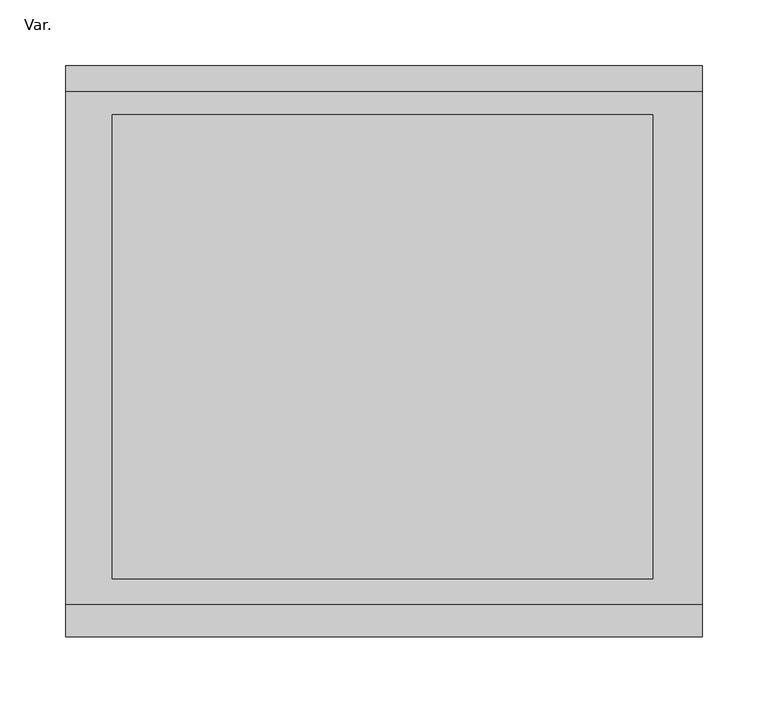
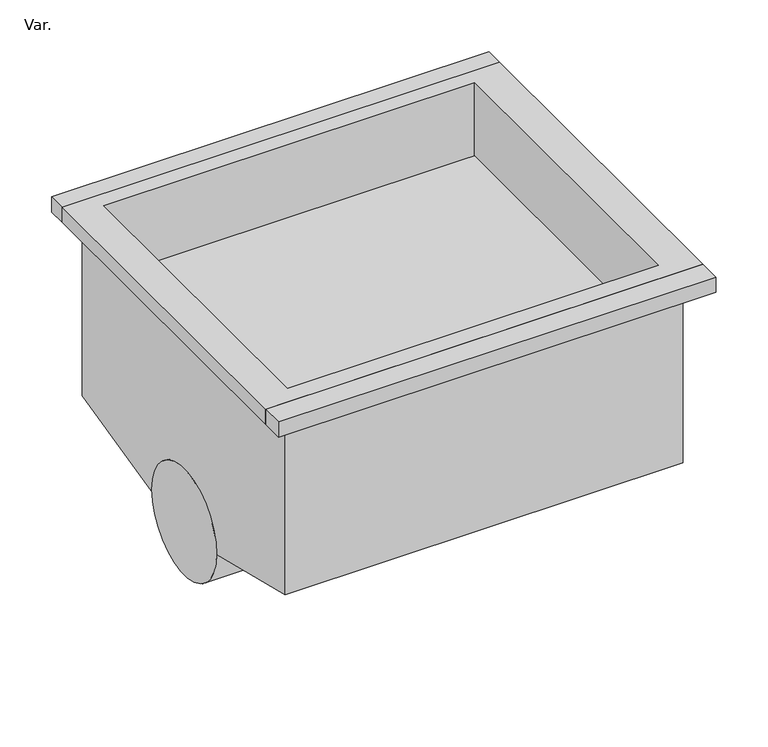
"""IFC4 building model written with IfcOpenShell, lengths in millimetres: pipe fitting geometry, PlastigamaWavin_Unionesdetubería_SanitariaCajaDomiciliaria : Var.."""

from ifc_helpers import new_model, si_unit, frame, origin, place, context, project, spatial, polyline, circle_curve, outline, extrude, source, transform, mapped, element, save
from ifc_brep_helpers import plane_surface, cylinder_surface, revolved_surface, advanced_brep


def var_2a6e803b(model_context):
    return source(origin(), model_context, "Body", "SolidModel", [
        advanced_brep(
        [(0.0, -250.0379931, 20.0), (0.0, -143.0379931, 20.0), (233.5, -250.0379931, 20.0), (233.5, -143.0379931, 20.0), (233.5, -259.0379931, 20.0), (233.5, -134.0379931, 20.0), (-221.0, -259.0379931, 20.0), (-221.0, -134.0379931, 20.0)],
        [
            (0, 1, circle_curve(frame((0.0, -196.5379931, 20.0), z_axis=(1.0, 0.0, 0.0), x_axis=(0.0, 1.0, 0.0)), 53.5)),
            (1, 0, circle_curve(frame((0.0, -196.5379931, 20.0), z_axis=(1.0, 0.0, 0.0), x_axis=(0.0, 1.0, 0.0)), 53.5)),
            (0, 2),
            (2, 3, circle_curve(frame((233.5, -196.5379931, 20.0), z_axis=(1.0, 0.0, 0.0), x_axis=(0.0, 1.0, 0.0)), 53.5)),
            (3, 1),
            (3, 2, circle_curve(frame((233.5, -196.5379931, 20.0), z_axis=(1.0, 0.0, 0.0), x_axis=(0.0, 1.0, 0.0)), 53.5)),
            (4, 5, circle_curve(frame((233.5, -196.5379931, 20.0), z_axis=(1.0, 0.0, 0.0), x_axis=(0.0, 1.0, 0.0)), 62.5)),
            (5, 4, circle_curve(frame((233.5, -196.5379931, 20.0), z_axis=(1.0, 0.0, 0.0), x_axis=(0.0, 1.0, 0.0)), 62.5)),
            (6, 7, circle_curve(frame((-221.0, -196.5379931, 20.0), z_axis=(-1.0, 0.0, 0.0), x_axis=(0.0, 1.0, 0.0)), 62.5)),
            (7, 6, circle_curve(frame((-221.0, -196.5379931, 20.0), z_axis=(-1.0, 0.0, 0.0), x_axis=(0.0, 1.0, 0.0)), 62.5)),
            (4, 6),
            (7, 5),
        ],
        [
            plane_surface(frame((0.0, -143.0379931, 20.0), z_axis=(1.0, 0.0, 0.0), x_axis=(0.0, 0.0, -1.0))),
            revolved_surface(polyline([(233.5, -143.0379931, 20.0), (0.0, -143.0379931, 20.0)]), (0.0, -196.5379931, 20.0), (1.0, 0.0, 0.0)),
            plane_surface(frame((233.5, -134.0379931, 20.0), z_axis=(1.0, 0.0, 0.0), x_axis=(0.0, 0.0, 1.0))),
            plane_surface(frame((-221.0, -134.0379931, 20.0), z_axis=(-1.0, 0.0, 0.0), x_axis=(0.0, 0.0, -1.0))),
            cylinder_surface(frame((-221.0, -196.5379931, 20.0), z_axis=(1.0, 0.0, 0.0), x_axis=(0.0, 1.0, 0.0)), 62.5),
        ],
        [
            (0, [[1, 2]]),
            (1, [[-1, 3, 4, 5]]),
            (1, [[-2, -5, 6, -3]]),
            (2, [[7, 8], [-4, -6]]),
            (3, [[9, 10]]),
            (4, [[-7, 11, -10, 12]]),
            (4, [[-8, -12, -9, -11]]),
        ],
    ),
        advanced_brep(
        [(221.0, -391.0, 260.0), (243.0, -391.0, 260.0), (243.0, -391.0, 278.0), (-243.0, -391.0, 278.0), (-243.0, -391.0, 260.0), (-221.0, -391.0, 260.0), (-221.0, -391.0, 52.3840671), (221.0, -391.0, 52.3840671), (-221.0, 0.0, 260.0), (-243.0, 0.0, 260.0), (-243.0, 0.0, 278.0), (243.0, 0.0, 278.0), (243.0, 0.0, 260.0), (221.0, 0.0, 260.0), (221.0, 0.0, 48.7436246), (-221.0, 0.0, 48.7436246), (-221.0, -194.874013, 3.7534137), (221.0, -249.9755632, 17.4161844), (221.0, -250.0379931, 20.0), (221.0, -143.0379931, 20.0), (221.0, -143.2126628, 15.6803761), (205.0, -371.5379931, 278.0), (-207.3709183, -371.5379931, 278.0), (-207.3709183, -17.7013715, 278.0), (205.0, -17.7013715, 278.0), (0.0, -143.2126628, 15.6803761), (0.0, -194.874013, 3.7534137), (0.0, -249.9755632, 17.4161844), (0.0, -143.0379931, 20.0), (0.0, -250.0379931, 20.0), (-207.3709183, -371.5379931, 192.0061108), (205.0, -371.5379931, 192.0061108), (205.0, -17.7013715, 192.0061108), (-207.3709183, -17.7013715, 192.0061108)],
        [
            (0, 1),
            (1, 2),
            (2, 3),
            (3, 4),
            (4, 5),
            (5, 6),
            (6, 7),
            (7, 0),
            (8, 9),
            (9, 10),
            (10, 11),
            (11, 12),
            (12, 13),
            (13, 14),
            (14, 15),
            (15, 8),
            (5, 8),
            (15, 16),
            (16, 6),
            (13, 0),
            (7, 17),
            (17, 18, circle_curve(frame((221.0, -196.5379931, 20.0), z_axis=(-1.0, 0.0, 0.0), x_axis=(0.0, 1.0, 0.0)), 53.5)),
            (18, 19, circle_curve(frame((221.0, -196.5379931, 20.0), z_axis=(-1.0, 0.0, 0.0), x_axis=(0.0, 1.0, 0.0)), 53.5)),
            (19, 20, circle_curve(frame((221.0, -196.5379931, 20.0), z_axis=(-1.0, 0.0, 0.0), x_axis=(0.0, 1.0, 0.0)), 53.5)),
            (20, 14),
            (12, 1),
            (11, 2),
            (10, 3),
            (21, 22),
            (22, 23),
            (23, 24),
            (24, 21),
            (9, 4),
            (20, 25),
            (25, 26),
            (26, 16),
            (26, 27),
            (27, 17),
            (28, 29, circle_curve(frame((0.0, -196.5379931, 20.0), z_axis=(1.0, 0.0, 0.0), x_axis=(0.0, 1.0, 0.0)), 53.5)),
            (29, 27, circle_curve(frame((0.0, -196.5379931, 20.0), z_axis=(1.0, 0.0, 0.0), x_axis=(0.0, 1.0, 0.0)), 53.5)),
            (25, 28, circle_curve(frame((0.0, -196.5379931, 20.0), z_axis=(1.0, 0.0, 0.0), x_axis=(0.0, 1.0, 0.0)), 53.5)),
            (29, 18),
            (19, 28),
            (30, 31),
            (31, 32),
            (32, 33),
            (33, 30),
            (30, 22),
            (21, 31),
            (24, 32),
            (23, 33),
        ],
        [
            plane_surface(frame((-221.0, -391.0, 0.0), z_axis=(0.0, -1.0, 0.0), x_axis=(0.0, 0.0, -1.0))),
            plane_surface(frame((-221.0, 0.0, 0.0), z_axis=(0.0, 1.0, 0.0), x_axis=(0.0, 0.0, 1.0))),
            plane_surface(frame((-221.0, -391.0, 260.0), z_axis=(-1.0, 0.0, 0.0), x_axis=(0.0, 1.0, 0.0))),
            plane_surface(frame((221.0, -391.0, 0.0), z_axis=(1.0, 0.0, 0.0), x_axis=(0.0, 1.0, 0.0))),
            plane_surface(frame((221.0, -391.0, 260.0), z_axis=(0.0, 0.0, -1.0), x_axis=(0.0, 1.0, 0.0))),
            plane_surface(frame((243.0, -391.0, 260.0), z_axis=(1.0, 0.0, 0.0), x_axis=(0.0, 1.0, 0.0))),
            plane_surface(frame((243.0, -391.0, 278.0), z_axis=(0.0, 0.0, 1.0), x_axis=(0.0, 1.0, 0.0))),
            plane_surface(frame((-243.0, -391.0, 278.0), z_axis=(-1.0, 0.0, 0.0), x_axis=(0.0, 1.0, 0.0))),
            plane_surface(frame((-243.0, -391.0, 260.0), z_axis=(0.0, 0.0, -1.0), x_axis=(0.0, 1.0, 0.0))),
            plane_surface(frame((221.0, 0.0, 48.7436246), z_axis=(0.0, 0.22495105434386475, -0.9743700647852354), x_axis=(-1.0, 0.0, 0.0))),
            plane_surface(frame((221.0, -194.874013, 3.7534137), z_axis=(0.0, -0.2406681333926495, -0.9706074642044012), x_axis=(-1.0, 0.0, 0.0))),
            plane_surface(frame((0.0, -143.0379931, 20.0), z_axis=(1.0, 0.0, 0.0), x_axis=(0.0, 0.0, -1.0))),
            revolved_surface(polyline([(221.0, -143.0379931, 20.0), (0.0, -143.0379931, 20.0)]), (0.0, -196.5379931, 20.0), (1.0, 0.0, 0.0)),
            plane_surface(frame((-221.0, -371.5379931, 192.0061108), z_axis=(0.0, 0.0, 1.0), x_axis=(-1.0, 0.0, 0.0))),
            plane_surface(frame((-207.3709183, -371.5379931, 701.9755419), z_axis=(0.0, 1.0, 0.0), x_axis=(0.0, 0.0, -1.0))),
            plane_surface(frame((205.0, -371.5379931, 701.9755419), z_axis=(-1.0, 0.0, 0.0), x_axis=(0.0, 0.0, -1.0))),
            plane_surface(frame((205.0, -17.7013715, 701.9755419), z_axis=(0.0, -1.0, 0.0), x_axis=(0.0, 0.0, -1.0))),
            plane_surface(frame((-207.3709183, -17.7013715, 701.9755419), z_axis=(1.0, 0.0, 0.0), x_axis=(0.0, 0.0, -1.0))),
        ],
        [
            (0, [[1, 2, 3, 4, 5, 6, 7, 8]]),
            (1, [[9, 10, 11, 12, 13, 14, 15, 16]]),
            (2, [[17, -16, 18, 19, -6]]),
            (3, [[20, -8, 21, 22, 23, 24, 25, -14]]),
            (4, [[-1, -20, -13, 26]]),
            (5, [[-2, -26, -12, 27]]),
            (6, [[-3, -27, -11, 28], [29, 30, 31, 32]]),
            (7, [[-4, -28, -10, 33]]),
            (8, [[-5, -33, -9, -17]]),
            (9, [[-15, -25, 34, 35, 36, -18]]),
            (10, [[-7, -19, -36, 37, 38, -21]]),
            (11, [[39, 40, -37, -35, 41]]),
            (12, [[-40, 42, -22, -38]]),
            (12, [[-41, -34, -24, 43]]),
            (12, [[-39, -43, -23, -42]]),
            (13, [[44, 45, 46, 47]]),
            (14, [[-44, 48, -29, 49]]),
            (15, [[-45, -49, -32, 50]]),
            (16, [[-46, -50, -31, 51]]),
            (17, [[-47, -51, -30, -48]]),
        ],
    ),
        extrude(outline(polyline([(243.0, 20.0), (243.0, 0.0), (-243.0, 0.0), (-243.0, 20.0), (243.0, 20.0)])), frame((0.0, 0.0, 260.0), z_axis=(0.0, 0.0, 1.0), x_axis=(1.0, 0.0, 0.0)), (0.0, 0.0, 1.0), 18.0),
        extrude(outline(polyline([(243.0, -391.0), (243.0, -416.0), (-243.0, -416.0), (-243.0, -391.0), (243.0, -391.0)])), frame((0.0, 0.0, 260.0), z_axis=(0.0, 0.0, 1.0), x_axis=(1.0, 0.0, 0.0)), (0.0, 0.0, 1.0), 18.0),
    ])


if __name__ == "__main__":
    model = new_model("IFC4")
    model_context = context("Model", 3, world=origin())
    ifc_project = project(units=[si_unit("LENGTHUNIT", "METRE", prefix="MILLI")], contexts=[model_context])
    site = spatial("IfcSite", under=ifc_project)
    building = spatial("IfcBuilding", under=site)
    placement = place(None, origin())
    var_shape = var_2a6e803b(model_context)
    element("IfcPipeFitting", 1, ObjectType="PlastigamaWavin_Unionesdetubería_SanitariaCajaDomiciliaria : Var.", at=placement, inside=building, context=model_context, shape_type="MappedRepresentation", body=[
        mapped(var_shape, transform((0.0, 0.0, 0.0), x_axis=(1.0, 0.0, 0.0), y_axis=(0.0, 1.0, 0.0), z_axis=(0.0, 0.0, 1.0))),
    ])
    save(model, "model.ifc")
